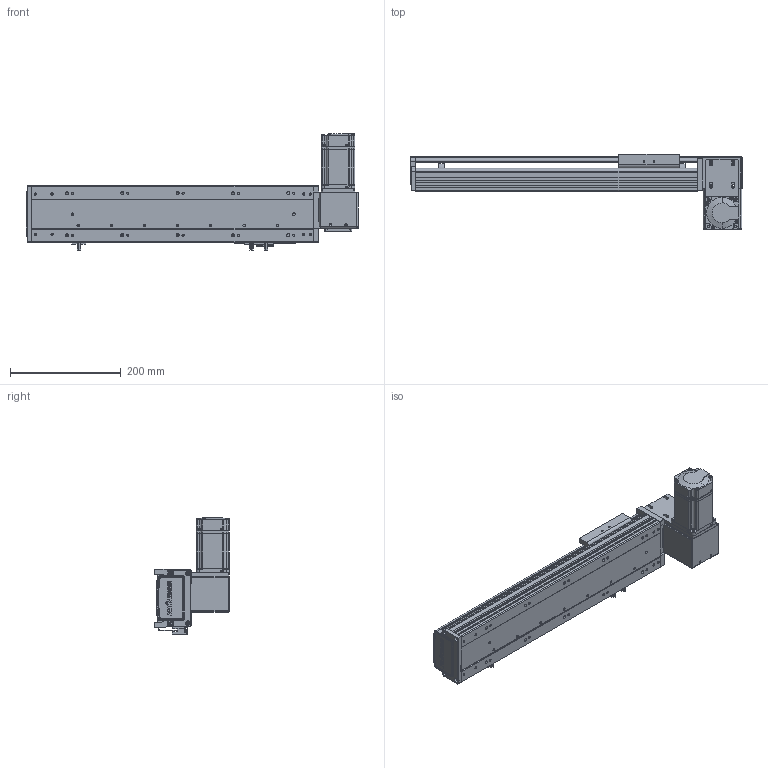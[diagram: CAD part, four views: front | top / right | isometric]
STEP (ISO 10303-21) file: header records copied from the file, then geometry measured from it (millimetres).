
FILE_DESCRIPTION (( 'STEP AP203' ), '1' );
FILE_NAME ('RY100-T-300-DR.SLDASM_300.step', '2024-04-25T03:21:38', ( '盈信电脑' ), ( '东莞市道滘镇水果街19号' ), 'SwSTEP 2.0', 'SolidWorks 2016', '' );
FILE_SCHEMA (( 'CONFIG_CONTROL_DESIGN' ));
Length unit declared in the file: millimetre
Products named in the file (16): 侂狟200W萇儂; RY100-T肮祭謫臏賑輸; RY100綴裔啣; RY100-T翋肮祭謫裔啣; RY100-T-300-RK倰第菁釱_300; RY100-T翋肮祭謫裔啣2; RY100-T左右折电机安装板; 覜茼ん672; RY100俋离覜茼え; 1; RY100-T粣創揤踡裔; 滅袉蝶18-10; RY100-T肮祭謫翋盓傅釱; RY100-T-300-RK倰第奻裔; RY80-T肮祭謫狟殏俋欶; RY100-T-300-DR.SLDASM_300
Assembly tree (19 placements, depth 3):
  RY100-T-300-DR.SLDASM_300
    RY100-T-300-RK倰第菁釱_300
    RY100-T-300-RK倰第奻裔
    RY100-T肮祭謫臏賑輸
    RY100綴裔啣
    覜茼ん672  x3
    RY100俋离覜茼え
    RY100-T肮祭謫翋盓傅釱
    RY100-T左右折电机安装板
    侂狟200W萇儂
      1
    RY100-T粣創揤踡裔
    滅袉蝶18-10  x2
    RY100-T翋肮祭謫裔啣2  x2
    RY100-T翋肮祭謫裔啣
    RY80-T肮祭謫狟殏俋欶
Bounding box: 600 x 135.5 x 209.7 mm (x, y, z)
Volume: 1524633.5 mm3; surface area: 596385.7 mm2
Topology: 18 solids, 18 shells, 2151 faces, 5949 edges, 3861 vertices
Faces by surface type: plane 1205, cylinder 741, cone 127, bspline 78
Entity records: 68154 total; most frequent: CARTESIAN_POINT 16238, ORIENTED_EDGE 10634, DIRECTION 10133, EDGE_CURVE 5317, VECTOR 3511, LINE 3511, VERTEX_POINT 3497, AXIS2_PLACEMENT_3D 3311
